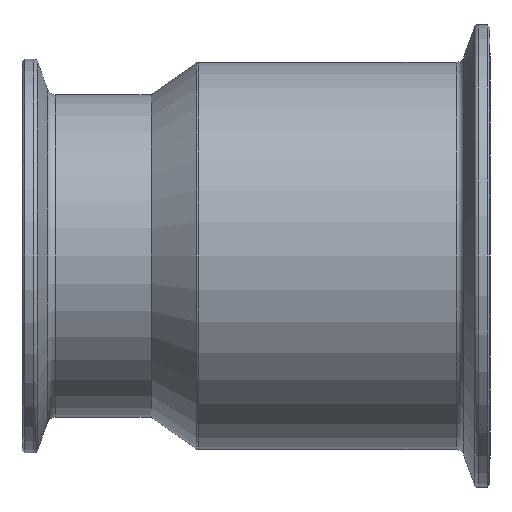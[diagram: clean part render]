
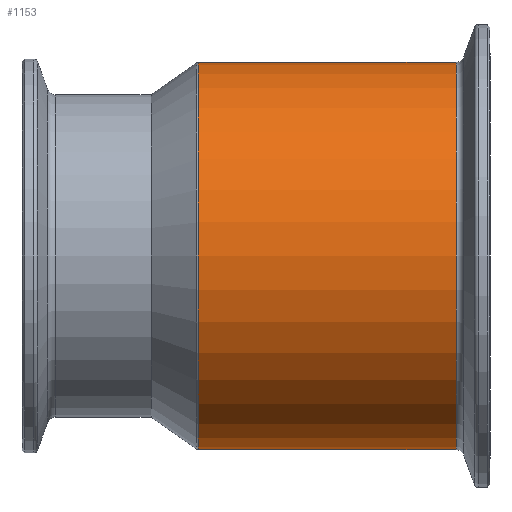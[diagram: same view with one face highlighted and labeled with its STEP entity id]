
A CAD part, front view. The second image highlights one B-rep face of the part: STEP entity #1153.
In plain terms, the highlighted cylindrical face has radius 38.1 mm (diameter 76.2 mm), a partial arc.
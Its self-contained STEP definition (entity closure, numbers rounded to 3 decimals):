
#67 = ORIENTED_EDGE ( 'NONE', *, *, #961, .T. ) ;
#77 = VERTEX_POINT ( 'NONE', #875 ) ;
#111 = CARTESIAN_POINT ( 'NONE',  ( 34.717, 0., 0. ) ) ;
#118 = DIRECTION ( 'NONE',  ( 1., 0., 0. ) ) ;
#123 = DIRECTION ( 'NONE',  ( -1., 0., 0. ) ) ;
#134 = DIRECTION ( 'NONE',  ( 0., 0., 1. ) ) ;
#167 = CIRCLE ( 'NONE', #1066, 38.1 ) ;
#203 = VERTEX_POINT ( 'NONE', #1682 ) ;
#318 = EDGE_CURVE ( 'NONE', #1403, #203, #1165, .T. ) ;
#478 = AXIS2_PLACEMENT_3D ( 'NONE', #694, #701, #673 ) ;
#540 = DIRECTION ( 'NONE',  ( -1., 0., 0. ) ) ;
#565 = DIRECTION ( 'NONE',  ( 0., 0., 1. ) ) ;
#670 = CARTESIAN_POINT ( 'NONE',  ( 34.717, 0., 38.1 ) ) ;
#673 = DIRECTION ( 'NONE',  ( 0., 0., 1. ) ) ;
#677 = ORIENTED_EDGE ( 'NONE', *, *, #1133, .T. ) ;
#685 = CARTESIAN_POINT ( 'NONE',  ( 85.411, 0., -38.1 ) ) ;
#694 = CARTESIAN_POINT ( 'NONE',  ( 85.411, 0., 0. ) ) ;
#701 = DIRECTION ( 'NONE',  ( -1., 0., 0. ) ) ;
#706 = CARTESIAN_POINT ( 'NONE',  ( -12.994, 0., 0. ) ) ;
#729 = FACE_OUTER_BOUND ( 'NONE', #1009, .T. ) ;
#748 = AXIS2_PLACEMENT_3D ( 'NONE', #706, #540, #565 ) ;
#749 = VECTOR ( 'NONE', #902, 1000. ) ;
#829 = LINE ( 'NONE', #874, #749 ) ;
#874 = CARTESIAN_POINT ( 'NONE',  ( -12.994, 0., 38.1 ) ) ;
#875 = CARTESIAN_POINT ( 'NONE',  ( 85.411, 0., 38.1 ) ) ;
#902 = DIRECTION ( 'NONE',  ( -1., 0., 0. ) ) ;
#961 = EDGE_CURVE ( 'NONE', #77, #1372, #829, .T. ) ;
#991 = CIRCLE ( 'NONE', #478, 38.1 ) ;
#1009 = EDGE_LOOP ( 'NONE', ( #1535, #677, #67, #1223 ) ) ;
#1066 = AXIS2_PLACEMENT_3D ( 'NONE', #111, #118, #134 ) ;
#1131 = VECTOR ( 'NONE', #123, 1000. ) ;
#1133 = EDGE_CURVE ( 'NONE', #1403, #77, #991, .T. ) ;
#1153 = ADVANCED_FACE ( 'NONE', ( #729 ), #1237, .T. ) ;
#1165 = LINE ( 'NONE', #1585, #1131 ) ;
#1223 = ORIENTED_EDGE ( 'NONE', *, *, #1389, .T. ) ;
#1237 = CYLINDRICAL_SURFACE ( 'NONE', #748, 38.1 ) ;
#1372 = VERTEX_POINT ( 'NONE', #670 ) ;
#1389 = EDGE_CURVE ( 'NONE', #1372, #203, #167, .T. ) ;
#1403 = VERTEX_POINT ( 'NONE', #685 ) ;
#1535 = ORIENTED_EDGE ( 'NONE', *, *, #318, .F. ) ;
#1585 = CARTESIAN_POINT ( 'NONE',  ( -12.994, 0., -38.1 ) ) ;
#1682 = CARTESIAN_POINT ( 'NONE',  ( 34.717, 0., -38.1 ) ) ;
